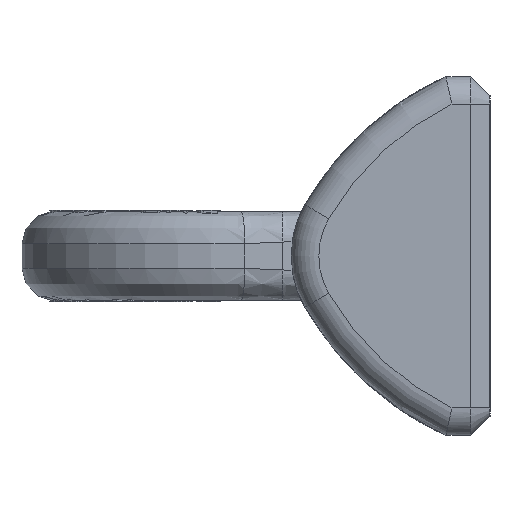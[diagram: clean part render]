
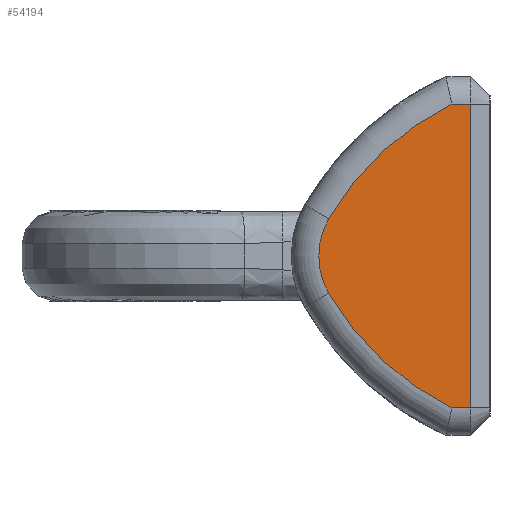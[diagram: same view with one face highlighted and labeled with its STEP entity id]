
A CAD part, left-side view. The second image highlights one B-rep face of the part: STEP entity #54194.
In plain terms, the highlighted planar face has unit normal (-1, 0, 0) as drawn and (0, 0, 1) by its records, which use the part's own axes.
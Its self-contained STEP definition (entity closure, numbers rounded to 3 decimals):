
#48298=CARTESIAN_POINT('',(0.,35.,65.));
#48299=DIRECTION('',(0.,0.,1.));
#48300=DIRECTION('',(0.501,0.866,0.));
#48301=AXIS2_PLACEMENT_3D('',#48298,#48299,#48300);
#48308=DIRECTION('',(-1.,0.,0.));
#48309=VECTOR('',#48308,110.);
#48310=CARTESIAN_POINT('',(55.,7.,65.));
#48311=LINE('',#48310,#48309);
#48312=DIRECTION('',(0.,-1.,0.));
#48313=VECTOR('',#48312,6.757);
#48314=CARTESIAN_POINT('',(-55.,13.757,65.));
#48315=LINE('',#48314,#48313);
#48316=CARTESIAN_POINT('',(38.566,-31.646,65.));
#48317=DIRECTION('',(0.,0.,1.));
#48318=DIRECTION('',(-0.501,0.866,0.));
#48319=AXIS2_PLACEMENT_3D('',#48316,#48317,#48318);
#48321=CARTESIAN_POINT('',(-38.566,-31.646,65.));
#48322=DIRECTION('',(0.,0.,-1.));
#48323=DIRECTION('',(0.501,0.866,0.));
#48324=AXIS2_PLACEMENT_3D('',#48321,#48322,#48323);
#48326=DIRECTION('',(0.,-1.,
0.));
#48327=VECTOR('',#48326,6.757);
#48328=CARTESIAN_POINT('',(55.,13.757,65.));
#48329=LINE('',#48328,#48327);
#50488=CARTESIAN_POINT('',(-13.523,58.369,65.));
#50489=CARTESIAN_POINT('',(-55.,13.757,65.));
#50490=VERTEX_POINT('',#50488);
#50491=VERTEX_POINT('',#50489);
#50498=CARTESIAN_POINT('',(13.523,58.369,65.));
#50499=CARTESIAN_POINT('',(55.,13.757,65.));
#50500=VERTEX_POINT('',#50498);
#50501=VERTEX_POINT('',#50499);
#50534=CARTESIAN_POINT('',(-55.,7.,65.));
#50535=VERTEX_POINT('',#50534);
#50538=CARTESIAN_POINT('',(55.,7.,65.));
#50539=VERTEX_POINT('',#50538);
#54177=CARTESIAN_POINT('',(0.,0.,65.));
#54178=DIRECTION('',(0.,0.,1.));
#54179=DIRECTION('',(1.,0.,0.));
#54180=AXIS2_PLACEMENT_3D('',#54177,#54178,#54179);
#54181=PLANE('',#54180);
#54183=ORIENTED_EDGE('',*,*,#54182,.T.);
#54185=ORIENTED_EDGE('',*,*,#54184,.F.);
#54186=ORIENTED_EDGE('',*,*,#54156,.F.);
#54187=ORIENTED_EDGE('',*,*,#54168,.F.);
#54189=ORIENTED_EDGE('',*,*,#54188,.T.);
#54191=ORIENTED_EDGE('',*,*,#54190,.T.);
#54192=EDGE_LOOP('',(#54183,#54185,#54186,#54187,#54189,#54191));
#54193=FACE_OUTER_BOUND('',#54192,.F.);
#54194=ADVANCED_FACE('',(#54193),#54181,.T.);
#48302=CIRCLE('',#48301,27.);
#48320=CIRCLE('',#48319,104.);
#48325=CIRCLE('',#48324,104.);
#54156=EDGE_CURVE('',#50490,#50491,#48320,.T.);
#54168=EDGE_CURVE('',#50500,#50490,#48302,.T.);
#54182=EDGE_CURVE('',#50539,#50535,#48311,.T.);
#54184=EDGE_CURVE('',#50491,#50535,#48315,.T.);
#54188=EDGE_CURVE('',#50500,#50501,#48325,.T.);
#54190=EDGE_CURVE('',#50501,#50539,#48329,.T.);
